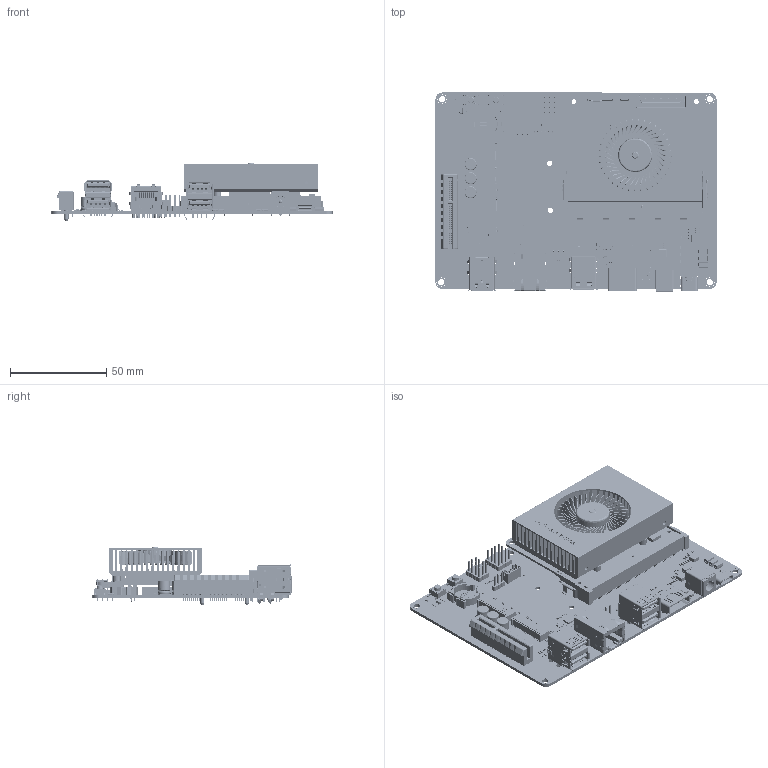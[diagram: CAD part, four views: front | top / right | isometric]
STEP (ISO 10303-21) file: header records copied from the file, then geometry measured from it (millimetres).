
FILE_DESCRIPTION(('FreeCAD Model'),'2;1');
FILE_NAME('Open CASCADE Shape Model','2024-05-16T13:56:56',(''),(''), 'Open CASCADE STEP processor 7.6','FreeCAD','Unknown');
FILE_SCHEMA(('AUTOMOTIVE_DESIGN { 1 0 10303 214 1 1 1 1 }'));
Length unit declared in the file: millimetre
Products named in the file (195): [DFR1142]Lite Carrier for LattePanda Mu; Board_Geoms_d48b; Pcb_d48b; Step_Models_d48b; Top_d48b; J11_PinHeader_1x03_P254mm_Vertical_345b8ba9af8"; C82_C_0603_1608Metric_d8edb0bac9c"; R37_R_0402_1005Metric_0dcce6552f0"; C60_C_0402_1005Metric_b47251d8064"; A1_核心板+散热器 简化模型 20240402 v5_2df5a122b9a"; LattePanda_Mu; LV0504-40P_VS_LV0505-40P_ASM; LV0504_VS_LV0505_STP_ASM; LV0505-401GB_ASM; LV0505-R40X; LV0505H-H40X; LV0504-40-0010RA-G3_STP_ASM; LV0504-40-0010RA-G3; LATTEPANDA_MU_-2020001_ASM; DOCUMENT_A_ASM; BREP_1; BREP_2; _X2_5B9E4F53_X0_1; BREP_9; BREP_10; BREP_11; BREP_13; FPC0510-06B2-G1R007; FPC0510-06B2-G1R; FPC0510-06B2-G1R001; FPC0510-06B2-G1R002; FPC0510-06B2-G1R003; FPC0510-06B2-G1R004; FPC0510-06B2-G1R005; FPC0510-06B2-G1R006; FPC0510-24B2-G1R023; FPC0510-24B2-G1R; FPC0510-24B2-G1R001; FPC0510-24B2-G1R002; FPC0510-24B2-G1R003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
Assembly tree (388 placements, depth 9):
  [DFR1142]Lite Carrier for LattePanda Mu
    Board_Geoms_d48b
      Pcb_d48b
    Step_Models_d48b
      Top_d48b
        J11_PinHeader_1x03_P254mm_Vertical_345b8ba9af8"  x6
        C82_C_0603_1608Metric_d8edb0bac9c"  x15
        R37_R_0402_1005Metric_0dcce6552f0"  x64
        C60_C_0402_1005Metric_b47251d8064"  x66
        A1_核心板+散热器 简化模型 20240402 v5_2df5a122b9a"
          LattePanda_Mu
            LV0504-40P_VS_LV0505-40P_ASM
              LV0504_VS_LV0505_STP_ASM
                LV0505-401GB_ASM
                  LV0505-R40X
                  LV0505H-H40X
                LV0504-40-0010RA-G3_STP_ASM
                  LV0504-40-0010RA-G3
            LATTEPANDA_MU_-2020001_ASM
              DOCUMENT_A_ASM
                BREP_1
                BREP_2
                _X2_5B9E4F53_X0_1
                BREP_9
                BREP_10
                BREP_11
                BREP_13
            FPC0510-06B2-G1R007
              FPC0510-06B2-G1R
              FPC0510-06B2-G1R001
              FPC0510-06B2-G1R002
              FPC0510-06B2-G1R003
              FPC0510-06B2-G1R004
              FPC0510-06B2-G1R005
              FPC0510-06B2-G1R006
            FPC0510-24B2-G1R023
              FPC0510-24B2-G1R
              FPC0510-24B2-G1R001
              FPC0510-24B2-G1R002
              FPC0510-24B2-G1R003
              FPC0510-24B2-G1R004
              FPC0510-24B2-G1R005
              FPC0510-24B2-G1R006
              FPC0510-24B2-G1R007
              FPC0510-24B2-G1R008
              FPC0510-24B2-G1R009
              FPC0510-24B2-G1R010
              FPC0510-24B2-G1R011
              FPC0510-24B2-G1R012
              FPC0510-24B2-G1R013
              FPC0510-24B2-G1R014
              FPC0510-24B2-G1R015
              FPC0510-24B2-G1R016
              FPC0510-24B2-G1R017
              FPC0510-24B2-G1R018
              FPC0510-24B2-G1R019
              FPC0510-24B2-G1R020
              FPC0510-24B2-G1R021
              FPC0510-24B2-G1R022
            S70NC1R100
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Bounding box: 146 x 103.39 x 29.88 mm (x, y, z)
Volume: 75993.5 mm3; surface area: 115875 mm2
Topology: 365 solids, 367 shells, 31954 faces, 87571 edges, 57358 vertices
Faces by surface type: plane 22535, cylinder 7842, bspline 1284, cone 103, torus 76, extrusion 73, sphere 36, revolution 5
Full cylindrical faces by diameter (mm): 0.2 x11, 0.3 x4, 0.5 x40, 0.65 x2, 0.7 x82, 0.75 x4, 0.9 x15, 0.92 x8, 1 x34, 1.05 x1, 1.1 x2, 1.15 x1, 1.3 x1, 1.4 x1, 1.428 x1, 1.5 x2, 1.6 x13, 1.65 x1, 1.8 x2, 2.2 x7, 2.3 x8, 2.35 x2, 2.5 x2, 2.75 x2, 3 x3, 3.05 x2, 3.2 x7, 3.25 x2, 4 x3, 6.3 x6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
Entity records: 890591 total; most frequent: CARTESIAN_POINT 195076, ORIENTED_EDGE 137076, DIRECTION 126436, EDGE_CURVE 68536, VECTOR 53011, LINE 52938, VERTEX_POINT 45026, AXIS2_PLACEMENT_3D 36711
